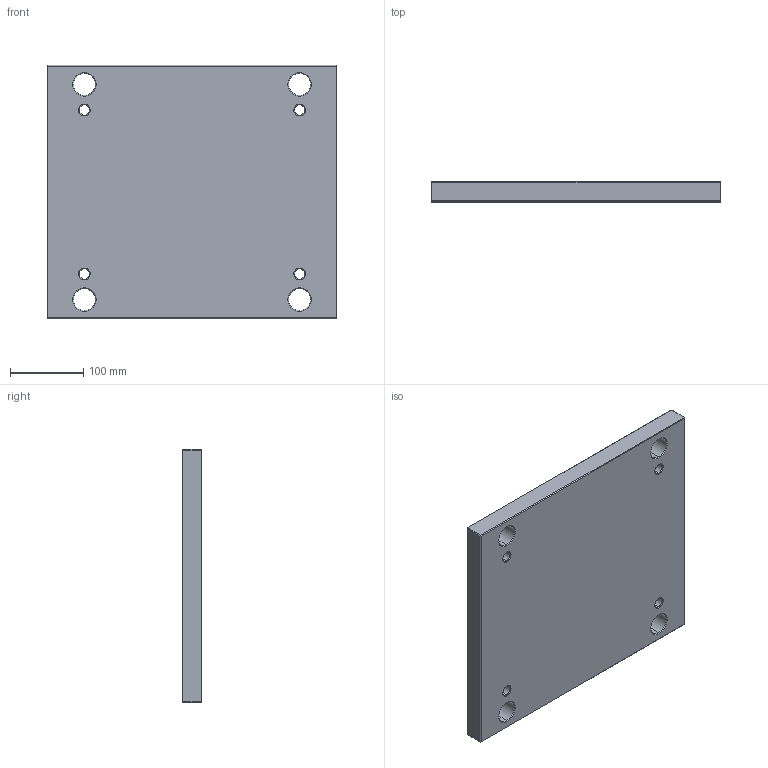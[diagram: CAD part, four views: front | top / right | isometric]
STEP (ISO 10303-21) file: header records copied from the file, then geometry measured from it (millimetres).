
FILE_DESCRIPTION (( 'STEP AP214' ), '1' );
FILE_NAME ('PBA-EU-346x346x27.STEP', '2020-03-10T15:44:39', ( 'August' ), ( '' ), 'SwSTEP 2.0', 'SolidWorks 2018', '' );
FILE_SCHEMA (( 'AUTOMOTIVE_DESIGN' ));
Length unit declared in the file: millimetre
Products named in the file (1): PBA-EU-346x346x27
Bounding box: 396 x 27 x 346 mm (x, y, z)
Volume: 3595353.6 mm3; surface area: 320722 mm2
Topology: 1 solids, 1 shells, 86 faces, 184 edges, 104 vertices
Faces by surface type: cone 32, plane 30, cylinder 24
Entity records: 2346 total; most frequent: DIRECTION 438, CARTESIAN_POINT 375, ORIENTED_EDGE 368, EDGE_CURVE 184, AXIS2_PLACEMENT_3D 167, EDGE_LOOP 106, VECTOR 104, LINE 104
